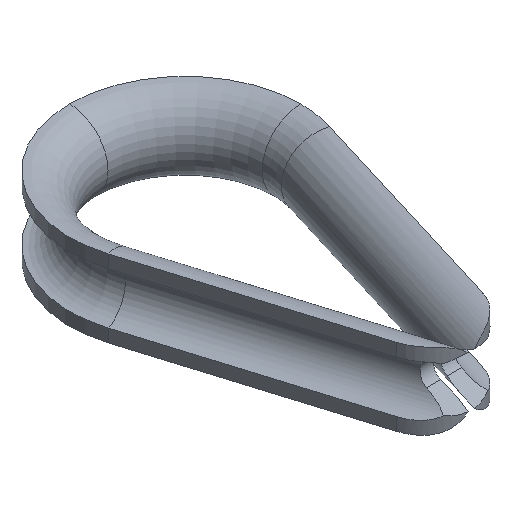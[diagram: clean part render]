
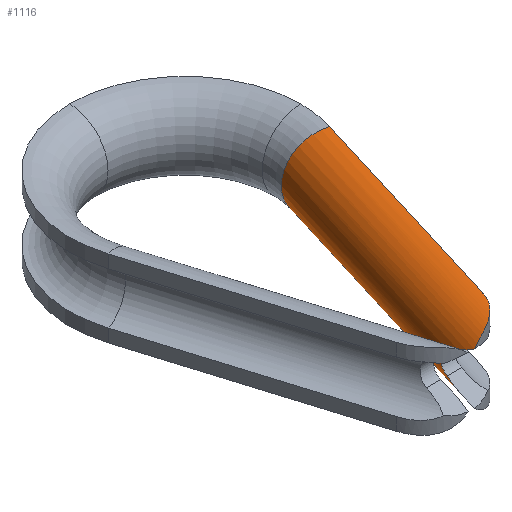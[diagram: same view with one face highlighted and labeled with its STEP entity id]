
A CAD part, isometric view. The second image highlights one B-rep face of the part: STEP entity #1116.
In plain terms, the highlighted cylindrical face has radius 3 mm (diameter 6 mm), a partial arc.
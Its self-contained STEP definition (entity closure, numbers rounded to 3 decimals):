
#500=CARTESIAN_POINT('',(0.249,-22.283,
-1.996));
#501=CARTESIAN_POINT('',(0.186,-21.929,
-1.811));
#502=CARTESIAN_POINT('',(0.14,-21.22,
-1.442));
#503=CARTESIAN_POINT('',(0.197,-20.509,
-1.072));
#504=CARTESIAN_POINT('',(0.246,-20.153,
-0.887));
#509=CARTESIAN_POINT('',(3.347,-19.816,-3.));
#510=CARTESIAN_POINT('',(3.293,-19.991,-3.));
#511=CARTESIAN_POINT('',(3.161,-20.325,-3.));
#512=CARTESIAN_POINT('',(2.892,-20.786,-2.998));
#513=CARTESIAN_POINT('',(2.565,-21.192,-2.983));
#514=CARTESIAN_POINT('',(2.197,-21.531,-2.944));
#515=CARTESIAN_POINT('',(1.806,-21.802,-2.87));
#516=CARTESIAN_POINT('',(1.403,-22.009,-2.75));
#517=CARTESIAN_POINT('',(0.992,-22.157,
-2.57));
#518=CARTESIAN_POINT('',(0.597,-22.248,
-2.321));
#519=CARTESIAN_POINT('',(0.359,-22.275,
-2.111));
#520=CARTESIAN_POINT('',(0.249,-22.283,
-1.996));
#525=DIRECTION('',(0.293,0.956,0.));
#526=VECTOR('',#525,17.969);
#527=CARTESIAN_POINT('',(3.347,-19.816,-3.));
#528=LINE('',#527,#526);
#532=CARTESIAN_POINT('',(0.249,-22.283,1.996));
#533=CARTESIAN_POINT('',(0.359,-22.275,2.111));
#534=CARTESIAN_POINT('',(0.597,-22.248,2.321));
#535=CARTESIAN_POINT('',(0.992,-22.157,2.57));
#536=CARTESIAN_POINT('',(1.402,-22.009,2.75));
#537=CARTESIAN_POINT('',(1.805,-21.802,2.87));
#538=CARTESIAN_POINT('',(2.197,-21.531,2.944));
#539=CARTESIAN_POINT('',(2.565,-21.192,2.983));
#540=CARTESIAN_POINT('',(2.892,-20.786,2.998));
#541=CARTESIAN_POINT('',(3.162,-20.324,3.));
#542=CARTESIAN_POINT('',(3.293,-19.991,3.));
#543=CARTESIAN_POINT('',(3.347,-19.816,3.));
#548=CARTESIAN_POINT('',(0.246,-20.153,
0.887));
#549=CARTESIAN_POINT('',(0.197,-20.509,1.072));
#550=CARTESIAN_POINT('',(0.14,-21.22,1.442));
#551=CARTESIAN_POINT('',(0.186,-21.929,1.811));
#552=CARTESIAN_POINT('',(0.249,-22.283,1.996));
#557=CARTESIAN_POINT('',(0.246,-20.153,
-0.887));
#558=CARTESIAN_POINT('',(0.256,-20.083,
-0.85));
#559=CARTESIAN_POINT('',(0.269,-19.953,
-0.762));
#560=CARTESIAN_POINT('',(0.275,-19.784,
-0.575));
#561=CARTESIAN_POINT('',(0.273,-19.671,
-0.358));
#562=CARTESIAN_POINT('',(0.271,-19.613,
-0.122));
#563=CARTESIAN_POINT('',(0.271,-19.613,
0.121));
#564=CARTESIAN_POINT('',(0.273,-19.671,
0.357));
#565=CARTESIAN_POINT('',(0.275,-19.784,
0.574));
#566=CARTESIAN_POINT('',(0.269,-19.952,
0.761));
#567=CARTESIAN_POINT('',(0.256,-20.082,
0.85));
#568=CARTESIAN_POINT('',(0.246,-20.153,
0.887));
#685=CARTESIAN_POINT('',(8.606,-2.634,0.));
#686=DIRECTION('',(0.293,0.956,0.));
#687=DIRECTION('',(0.,0.,-1.));
#688=AXIS2_PLACEMENT_3D('',#685,#686,#687);
#723=DIRECTION('',(0.293,0.956,0.));
#724=VECTOR('',#723,17.969);
#725=CARTESIAN_POINT('',(3.347,-19.816,3.));
#726=LINE('',#725,#724);
#801=CARTESIAN_POINT('',(8.606,-2.634,-3.));
#802=VERTEX_POINT('',#801);
#803=CARTESIAN_POINT('',(8.606,-2.634,3.));
#804=VERTEX_POINT('',#803);
#821=CARTESIAN_POINT('',(3.347,-19.816,-3.));
#823=VERTEX_POINT('',#821);
#826=CARTESIAN_POINT('',(3.347,-19.816,3.));
#828=VERTEX_POINT('',#826);
#841=VERTEX_POINT('',#500);
#842=VERTEX_POINT('',#504);
#843=VERTEX_POINT('',#568);
#844=VERTEX_POINT('',#552);
#1098=CARTESIAN_POINT('',(2.869,-21.378,0.));
#1099=DIRECTION('',(0.293,0.956,0.));
#1100=DIRECTION('',(-0.956,0.293,0.));
#1101=AXIS2_PLACEMENT_3D('',#1098,#1099,#1100);
#1102=CYLINDRICAL_SURFACE('',#1101,3.);
#1103=ORIENTED_EDGE('',*,*,#938,.F.);
#1104=ORIENTED_EDGE('',*,*,#990,.F.);
#1106=ORIENTED_EDGE('',*,*,#1105,.T.);
#1108=ORIENTED_EDGE('',*,*,#1107,.T.);
#1110=ORIENTED_EDGE('',*,*,#1109,.F.);
#1111=ORIENTED_EDGE('',*,*,#1017,.F.);
#1112=ORIENTED_EDGE('',*,*,#1092,.F.);
#1113=ORIENTED_EDGE('',*,*,#1066,.F.);
#1114=EDGE_LOOP('',(#1103,#1104,#1106,#1108,#1110,#1111,#1112,#1113));
#1115=FACE_OUTER_BOUND('',#1114,.F.);
#505=B_SPLINE_CURVE_WITH_KNOTS('',3,(#500,#501,#502,#503,#504),.UNSPECIFIED.,
.F.,.F.,(4,1,4),(0.,0.5,1.),.UNSPECIFIED.);
#521=B_SPLINE_CURVE_WITH_KNOTS('',3,(#509,#510,#511,#512,#513,#514,#515,#516,
#517,#518,#519,#520),.UNSPECIFIED.,.F.,.F.,(4,1,1,1,1,1,1,1,1,4),(0.,
0.111,0.222,0.333,0.444,
0.556,0.667,0.778,0.889,1.),
.UNSPECIFIED.);
#544=B_SPLINE_CURVE_WITH_KNOTS('',3,(#532,#533,#534,#535,#536,#537,#538,#539,
#540,#541,#542,#543),.UNSPECIFIED.,.F.,.F.,(4,1,1,1,1,1,1,1,1,4),(0.,
0.111,0.222,0.333,0.444,
0.556,0.667,0.778,0.889,1.),
.UNSPECIFIED.);
#553=B_SPLINE_CURVE_WITH_KNOTS('',3,(#548,#549,#550,#551,#552),.UNSPECIFIED.,
.F.,.F.,(4,1,4),(0.,0.5,1.),.UNSPECIFIED.);
#569=B_SPLINE_CURVE_WITH_KNOTS('',3,(#557,#558,#559,#560,#561,#562,#563,#564,
#565,#566,#567,#568),.UNSPECIFIED.,.F.,.F.,(4,1,1,1,1,1,1,1,1,4),(0.,
0.111,0.222,0.333,0.444,
0.556,0.667,0.778,0.889,1.),
.UNSPECIFIED.);
#689=CIRCLE('',#688,3.);
#938=EDGE_CURVE('',#841,#842,#505,.T.);
#990=EDGE_CURVE('',#823,#841,#521,.T.);
#1017=EDGE_CURVE('',#844,#828,#544,.T.);
#1066=EDGE_CURVE('',#842,#843,#569,.T.);
#1092=EDGE_CURVE('',#843,#844,#553,.T.);
#1105=EDGE_CURVE('',#823,#802,#528,.T.);
#1107=EDGE_CURVE('',#802,#804,#689,.T.);
#1109=EDGE_CURVE('',#828,#804,#726,.T.);
#1116=ADVANCED_FACE('',(#1115),#1102,.T.);
